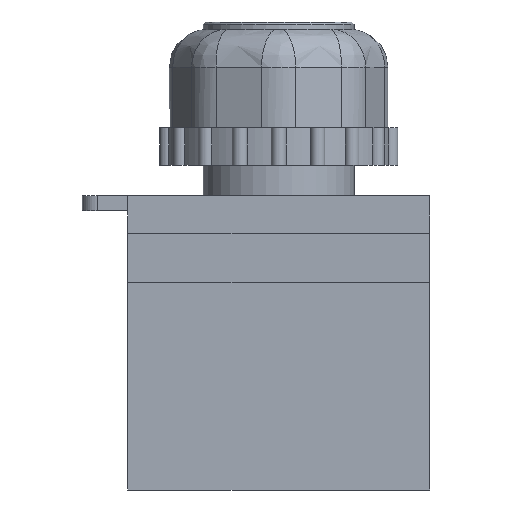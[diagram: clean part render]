
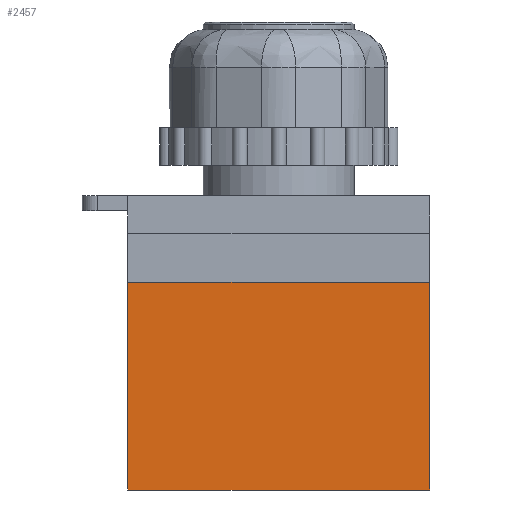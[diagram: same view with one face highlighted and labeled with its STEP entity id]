
A CAD part, front view. The second image highlights one B-rep face of the part: STEP entity #2457.
In plain terms, the highlighted planar face has unit normal (0, -1, 0).
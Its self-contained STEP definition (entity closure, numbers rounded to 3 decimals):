
#238=FACE_OUTER_BOUND('',#383,.T.);
#383=EDGE_LOOP('',(#1652,#1653,#1654,#1655));
#541=LINE('',#3623,#779);
#550=LINE('',#3640,#788);
#551=LINE('',#3642,#789);
#552=LINE('',#3643,#790);
#779=VECTOR('',#2877,10.);
#788=VECTOR('',#2890,10.);
#789=VECTOR('',#2891,10.);
#790=VECTOR('',#2892,10.);
#1015=VERTEX_POINT('',#3620);
#1016=VERTEX_POINT('',#3622);
#1022=VERTEX_POINT('',#3639);
#1023=VERTEX_POINT('',#3641);
#1263=EDGE_CURVE('',#1015,#1016,#541,.T.);
#1272=EDGE_CURVE('',#1016,#1022,#550,.T.);
#1273=EDGE_CURVE('',#1015,#1023,#551,.T.);
#1274=EDGE_CURVE('',#1022,#1023,#552,.T.);
#1652=ORIENTED_EDGE('',*,*,#1272,.F.);
#1653=ORIENTED_EDGE('',*,*,#1263,.F.);
#1654=ORIENTED_EDGE('',*,*,#1273,.T.);
#1655=ORIENTED_EDGE('',*,*,#1274,.F.);
#2377=PLANE('',#2610);
#2457=ADVANCED_FACE('',(#238),#2377,.F.);
#2610=AXIS2_PLACEMENT_3D('',#3638,#2888,#2889);
#2877=DIRECTION('',(0.,0.,-1.));
#2888=DIRECTION('center_axis',(0.,1.,0.));
#2889=DIRECTION('ref_axis',(-1.,0.,0.));
#2890=DIRECTION('',(-1.,0.,0.));
#2891=DIRECTION('',(-1.,0.,0.));
#2892=DIRECTION('',(0.,0.,1.));
#3620=CARTESIAN_POINT('',(20.,-6.,32.));
#3622=CARTESIAN_POINT('',(20.,-6.,0.));
#3623=CARTESIAN_POINT('',(20.,-6.,0.));
#3638=CARTESIAN_POINT('Origin',(20.,-6.,0.));
#3639=CARTESIAN_POINT('',(-20.,-6.,0.));
#3640=CARTESIAN_POINT('',(10.,-6.,0.));
#3641=CARTESIAN_POINT('',(-20.,-6.,32.));
#3642=CARTESIAN_POINT('',(-20.,-6.,32.));
#3643=CARTESIAN_POINT('',(-20.,-6.,0.));
